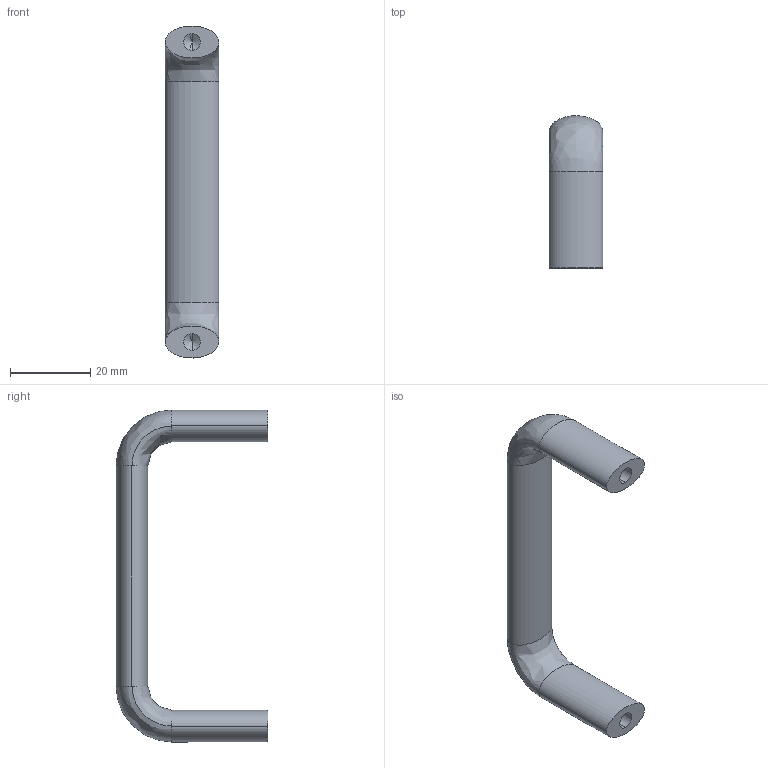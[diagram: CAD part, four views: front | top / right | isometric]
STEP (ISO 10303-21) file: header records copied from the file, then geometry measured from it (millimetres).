
FILE_DESCRIPTION (( 'STEP AP203' ), '1' );
FILE_NAME ('E02-516075.STEP', '2024-10-29T02:56:02', ( '' ), ( '' ), 'SwSTEP 2.0', 'SolidWorks 2021', '' );
FILE_SCHEMA (( 'CONFIG_CONTROL_DESIGN' ));
Length unit declared in the file: millimetre
Products named in the file (1): E02-516075
Bounding box: 13.47 x 38 x 82.99 mm (x, y, z)
Volume: 11006.8 mm3; surface area: 5124.9 mm2
Topology: 1 solids, 1 shells, 20 faces, 42 edges, 22 vertices
Faces by surface type: bspline 10, cylinder 4, cone 4, plane 2
Entity records: 707 total; most frequent: CARTESIAN_POINT 321, ORIENTED_EDGE 76, DIRECTION 46, EDGE_CURVE 38, VERTEX_POINT 22, EDGE_LOOP 22, ADVANCED_FACE 20, FACE_OUTER_BOUND 20
